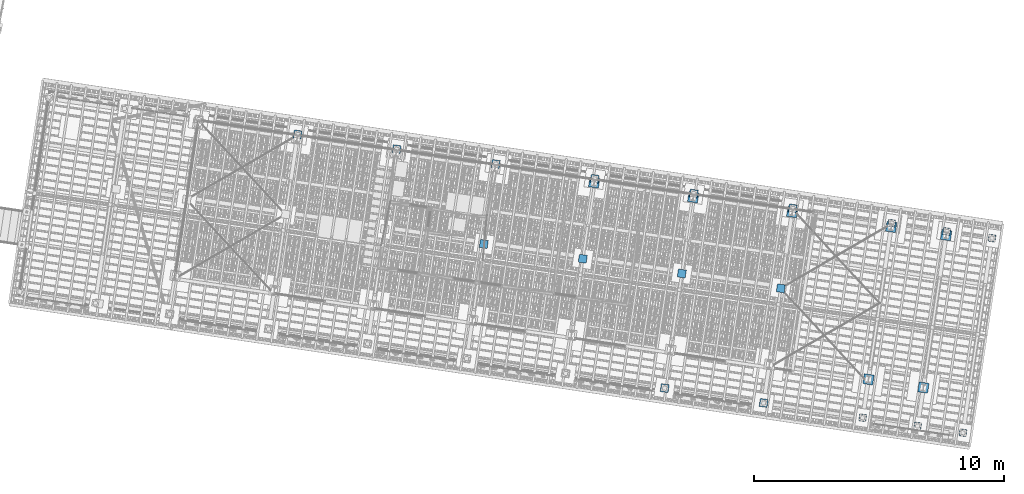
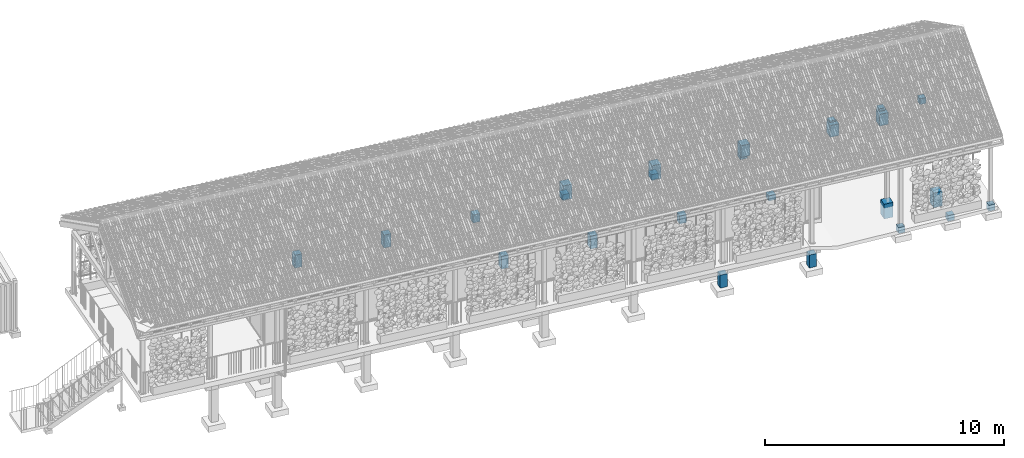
# One storey, part 6 of 131: 25 columns, 2 elements without a shape of their own.
"""IFC4 building model written with IfcOpenShell, lengths in metres."""

from ifc_helpers import new_model, si_unit, direction, frame, origin_with_axes, place, context, subcontext, project, spatial, polyline, outline, extrude, material, element, aggregate, save


model = new_model("IFC4")

# Units and contexts
model_context = context("Model", 3, precision=1e-05, world=origin_with_axes(), true_north=direction((0.0, 1.0)))
body_context = subcontext(model_context, "Body", "Model", "MODEL_VIEW")
ifc_project = project(units=[si_unit("VOLUMEUNIT", "CUBIC_METRE"), si_unit("LENGTHUNIT", "METRE"), si_unit("AREAUNIT", "SQUARE_METRE")], contexts=[model_context])

# Site, building, storey
site_placement = place(None, origin_with_axes())
site = spatial("IfcSite", under=ifc_project, at=site_placement, Name="Lares · Rua das Mercês · artigo 4771")
building_placement = place(site_placement, frame((15.0, 9.7, 14.65), z_axis=(0.0, 0.0, 1.0), x_axis=(0.989015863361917, -0.147809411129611, 0.0)))
building = spatial("IfcBuilding", under=site, at=building_placement, Name="Casa Sobreposta")
storey_placement = place(building_placement, origin_with_axes())
storey = spatial("IfcBuildingStorey", under=building, at=storey_placement, Name="00 · Habitação e estacionamento", Elevation=14.65)

# Columns
ifc_material = material(Name="Betão armado / Stahlbeton", Category="concrete")
column_1_placement = place(storey_placement, frame((0.0, 0.0, -0.75), z_axis=(0.0, 0.0, 1.0), x_axis=(1.0, 0.0, 0.0)))
element("IfcColumn", 1, at=column_1_placement, inside=storey, material=ifc_material, Name="Casa térrea · pedestal", context=body_context, shape_type="SweptSolid", body=[
    extrude(outline(polyline([(16.2, 6.08), (16.2, 6.48), (15.8, 6.48), (15.8, 6.08), (16.2, 6.08)])), origin_with_axes(), (0.0, 0.0, 1.0), 0.75),
])
column_2_placement = place(storey_placement, frame((0.0, 0.0, -0.75), z_axis=(0.0, 0.0, 1.0), x_axis=(1.0, 0.0, 0.0)))
element("IfcColumn", 2, at=column_2_placement, inside=storey, material=ifc_material, Name="Casa térrea · pedestal", context=body_context, shape_type="SweptSolid", body=[
    extrude(outline(polyline([(20.2, 6.08), (20.2, 6.48), (19.8, 6.48), (19.8, 6.08), (20.2, 6.08)])), origin_with_axes(), (0.0, 0.0, 1.0), 0.75),
])
column_3_placement = place(storey_placement, frame((0.0, 0.0, -0.6), z_axis=(0.0, 0.0, 1.0), x_axis=(1.0, 0.0, 0.0)))
element("IfcColumn", 3, at=column_3_placement, inside=storey, material=ifc_material, Name="Casa térrea · pedestal", context=body_context, shape_type="SweptSolid", body=[
    extrude(outline(polyline([(24.2, 6.08), (24.2, 6.48), (23.8, 6.48), (23.8, 6.08), (24.2, 6.08)])), origin_with_axes(), (0.0, 0.0, 1.0), 0.6),
])
column_4_placement = place(storey_placement, frame((0.0, 0.0, -0.75), z_axis=(0.0, 0.0, 1.0), x_axis=(1.0, 0.0, 0.0)))
element("IfcColumn", 4, at=column_4_placement, inside=storey, material=ifc_material, Name="Casa térrea · pedestal", context=body_context, shape_type="SweptSolid", body=[
    extrude(outline(polyline([(28.2, -0.08), (28.2, 0.32), (27.8, 0.32), (27.8, -0.08), (28.2, -0.08)])), origin_with_axes(), (0.0, 0.0, 1.0), 0.75),
])
column_5_placement = place(storey_placement, frame((0.0, 0.0, -0.6), z_axis=(0.0, 0.0, 1.0), x_axis=(1.0, 0.0, 0.0)))
element("IfcColumn", 5, at=column_5_placement, inside=storey, material=ifc_material, Name="Casa térrea · pedestal", context=body_context, shape_type="SweptSolid", body=[
    extrude(outline(polyline([(28.2, 6.08), (28.2, 6.48), (27.8, 6.48), (27.8, 6.08), (28.2, 6.08)])), origin_with_axes(), (0.0, 0.0, 1.0), 0.6),
])
column_6_placement = place(storey_placement, frame((0.0, 0.0, -0.75), z_axis=(0.0, 0.0, 1.0), x_axis=(1.0, 0.0, 0.0)))
element("IfcColumn", 6, at=column_6_placement, inside=storey, material=ifc_material, Name="Casa térrea · pedestal", context=body_context, shape_type="SweptSolid", body=[
    extrude(outline(polyline([(30.42, -0.08), (30.42, 0.32), (30.02, 0.32), (30.02, -0.08), (30.42, -0.08)])), origin_with_axes(), (0.0, 0.0, 1.0), 0.75),
])
column_7_placement = place(storey_placement, frame((0.0, 0.0, -0.6), z_axis=(0.0, 0.0, 1.0), x_axis=(1.0, 0.0, 0.0)))
element("IfcColumn", 7, at=column_7_placement, inside=storey, material=ifc_material, Name="Casa térrea · pedestal", context=body_context, shape_type="SweptSolid", body=[
    extrude(outline(polyline([(30.42, 6.08), (30.42, 6.48), (30.02, 6.48), (30.02, 6.08), (30.42, 6.08)])), origin_with_axes(), (0.0, 0.0, 1.0), 0.6),
])

# Assembly, columns
assembly_1_placement = place(storey_placement, origin_with_axes())
assembly_1 = element("IfcElementAssembly", 8, at=assembly_1_placement, inside=storey, Name="Pódio · terraço, casa térrea e cisterna", ObjectType="CISTERN_PODIUM", PredefinedType="USERDEFINED")
column_8_placement = place(assembly_1_placement, frame((0.0, 0.0, -1.25), z_axis=(0.0, 0.0, 1.0), x_axis=(1.0, 0.0, 0.0)))
column_8 = element("IfcColumn", 9, at=column_8_placement, material=ifc_material, Name="Pódio suspenso · apoio sobre o terreno", context=body_context, shape_type="SweptSolid", body=[
    extrude(outline(polyline([(4.16, 6.27), (4.16, 6.59), (3.84, 6.59), (3.84, 6.27), (4.16, 6.27)])), origin_with_axes(), (0.0, 0.0, 1.0), 0.66),
])
column_9_placement = place(assembly_1_placement, frame((0.0, 0.0, -1.25), z_axis=(0.0, 0.0, 1.0), x_axis=(1.0, 0.0, 0.0)))
column_9 = element("IfcColumn", 10, at=column_9_placement, material=ifc_material, Name="Pódio suspenso · apoio sobre o terreno", context=body_context, shape_type="SweptSolid", body=[
    extrude(outline(polyline([(8.16, 6.27), (8.16, 6.59), (7.84, 6.59), (7.84, 6.27), (8.16, 6.27)])), origin_with_axes(), (0.0, 0.0, 1.0), 0.66),
])
column_10_placement = place(assembly_1_placement, frame((0.0, 0.0, -1.25), z_axis=(0.0, 0.0, 1.0), x_axis=(1.0, 0.0, 0.0)))
column_10 = element("IfcColumn", 11, at=column_10_placement, material=ifc_material, Name="Pódio suspenso · apoio sobre o terreno", context=body_context, shape_type="SweptSolid", body=[
    extrude(outline(polyline([(12.16, 3.04), (12.16, 3.36), (11.84, 3.36), (11.84, 3.04), (12.16, 3.04)])), origin_with_axes(), (0.0, 0.0, 1.0), 0.66),
])
column_11_placement = place(assembly_1_placement, frame((0.0, 0.0, -1.0), z_axis=(0.0, 0.0, 1.0), x_axis=(1.0, 0.0, 0.0)))
column_11 = element("IfcColumn", 12, at=column_11_placement, material=ifc_material, Name="Pódio suspenso · apoio sobre o terreno", context=body_context, shape_type="SweptSolid", body=[
    extrude(outline(polyline([(12.16, 6.27), (12.16, 6.59), (11.84, 6.59), (11.84, 6.27), (12.16, 6.27)])), origin_with_axes(), (0.0, 0.0, 1.0), 0.41),
])
column_12_placement = place(assembly_1_placement, frame((0.0, 0.0, -1.25), z_axis=(0.0, 0.0, 1.0), x_axis=(1.0, 0.0, 0.0)))
column_12 = element("IfcColumn", 13, at=column_12_placement, material=ifc_material, Name="Pódio suspenso · apoio sobre o terreno", context=body_context, shape_type="SweptSolid", body=[
    extrude(outline(polyline([(16.16, 3.04), (16.16, 3.36), (15.84, 3.36), (15.84, 3.04), (16.16, 3.04)])), origin_with_axes(), (0.0, 0.0, 1.0), 0.66),
])
column_13_placement = place(assembly_1_placement, frame((0.0, 0.0, -0.85), z_axis=(0.0, 0.0, 1.0), x_axis=(1.0, 0.0, 0.0)))
column_13 = element("IfcColumn", 14, at=column_13_placement, material=ifc_material, Name="Pódio suspenso · apoio sobre o terreno", context=body_context, shape_type="SweptSolid", body=[
    extrude(outline(polyline([(16.16, 6.27), (16.16, 6.59), (15.84, 6.59), (15.84, 6.27), (16.16, 6.27)])), origin_with_axes(), (0.0, 0.0, 1.0), 0.26),
])
column_14_placement = place(assembly_1_placement, frame((0.0, 0.0, -1.25), z_axis=(0.0, 0.0, 1.0), x_axis=(1.0, 0.0, 0.0)))
column_14 = element("IfcColumn", 15, at=column_14_placement, material=ifc_material, Name="Pódio suspenso · apoio sobre o terreno", context=body_context, shape_type="SweptSolid", body=[
    extrude(outline(polyline([(20.16, -1.59), (20.16, -1.27), (19.84, -1.27), (19.84, -1.59), (20.16, -1.59)])), origin_with_axes(), (0.0, 0.0, 1.0), 0.66),
])
column_15_placement = place(assembly_1_placement, frame((0.0, 0.0, -1.0), z_axis=(0.0, 0.0, 1.0), x_axis=(1.0, 0.0, 0.0)))
column_15 = element("IfcColumn", 16, at=column_15_placement, material=ifc_material, Name="Pódio suspenso · apoio sobre o terreno", context=body_context, shape_type="SweptSolid", body=[
    extrude(outline(polyline([(20.16, 3.04), (20.16, 3.36), (19.84, 3.36), (19.84, 3.04), (20.16, 3.04)])), origin_with_axes(), (0.0, 0.0, 1.0), 0.41),
])
column_16_placement = place(assembly_1_placement, frame((0.0, 0.0, -0.85), z_axis=(0.0, 0.0, 1.0), x_axis=(1.0, 0.0, 0.0)))
column_16 = element("IfcColumn", 17, at=column_16_placement, material=ifc_material, Name="Pódio suspenso · apoio sobre o terreno", context=body_context, shape_type="SweptSolid", body=[
    extrude(outline(polyline([(20.16, 6.27), (20.16, 6.59), (19.84, 6.59), (19.84, 6.27), (20.16, 6.27)])), origin_with_axes(), (0.0, 0.0, 1.0), 0.26),
])
column_17_placement = place(assembly_1_placement, frame((0.0, 0.0, -1.25), z_axis=(0.0, 0.0, 1.0), x_axis=(1.0, 0.0, 0.0)))
column_17 = element("IfcColumn", 18, at=column_17_placement, material=ifc_material, Name="Pódio suspenso · apoio sobre o terreno", context=body_context, shape_type="SweptSolid", body=[
    extrude(outline(polyline([(24.16, -1.59), (24.16, -1.27), (23.84, -1.27), (23.84, -1.59), (24.16, -1.59)])), origin_with_axes(), (0.0, 0.0, 1.0), 0.66),
])
column_18_placement = place(assembly_1_placement, frame((0.0, 0.0, -0.85), z_axis=(0.0, 0.0, 1.0), x_axis=(1.0, 0.0, 0.0)))
column_18 = element("IfcColumn", 19, at=column_18_placement, material=ifc_material, Name="Pódio suspenso · apoio sobre o terreno", context=body_context, shape_type="SweptSolid", body=[
    extrude(outline(polyline([(24.16, 3.04), (24.16, 3.36), (23.84, 3.36), (23.84, 3.04), (24.16, 3.04)])), origin_with_axes(), (0.0, 0.0, 1.0), 0.26),
])
column_19_placement = place(assembly_1_placement, frame((0.0, 0.0, -0.85), z_axis=(0.0, 0.0, 1.0), x_axis=(1.0, 0.0, 0.0)))
column_19 = element("IfcColumn", 20, at=column_19_placement, material=ifc_material, Name="Pódio suspenso · apoio sobre o terreno", context=body_context, shape_type="SweptSolid", body=[
    extrude(outline(polyline([(24.16, 6.27), (24.16, 6.59), (23.84, 6.59), (23.84, 6.27), (24.16, 6.27)])), origin_with_axes(), (0.0, 0.0, 1.0), 0.26),
])
aggregate(assembly_1, [column_8, column_9, column_10, column_11, column_12, column_13, column_14, column_15, column_16, column_17, column_18, column_19])

assembly_2_placement = place(storey_placement, origin_with_axes())
assembly_2 = element("IfcElementAssembly", 21, at=assembly_2_placement, inside=storey, Name="Varanda coberta · continuação integral da cobertura", ObjectType="COVERED_PODIUM_BALCONY", PredefinedType="USERDEFINED")
column_20_placement = place(assembly_2_placement, frame((0.0, 0.0, -0.54005), z_axis=(0.0, 0.0, 1.0), x_axis=(1.0, 0.0, 0.0)))
column_20 = element("IfcColumn", 22, at=column_20_placement, material=ifc_material, Name="Varanda coberta · pedestal enterrado", context=body_context, shape_type="SweptSolid", body=[
    extrude(outline(polyline([(28.14, -1.57), (28.14, -1.29), (27.86, -1.29), (27.86, -1.57), (28.14, -1.57)])), origin_with_axes(), (0.0, 0.0, 1.0), 0.3),
])
column_21_placement = place(assembly_2_placement, frame((0.0, 0.0, -0.225649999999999), z_axis=(0.0, 0.0, 1.0), x_axis=(1.0, 0.0, 0.0)))
column_21 = element("IfcColumn", 23, at=column_21_placement, material=ifc_material, Name="Varanda coberta · pedestal enterrado", context=body_context, shape_type="SweptSolid", body=[
    extrude(outline(polyline([(28.14, 6.29), (28.14, 6.57), (27.86, 6.57), (27.86, 6.29), (28.14, 6.29)])), origin_with_axes(), (0.0, 0.0, 1.0), 0.3),
])
column_22_placement = place(assembly_2_placement, frame((0.0, 0.0, -0.48455), z_axis=(0.0, 0.0, 1.0), x_axis=(1.0, 0.0, 0.0)))
column_22 = element("IfcColumn", 24, at=column_22_placement, material=ifc_material, Name="Varanda coberta · pedestal enterrado", context=body_context, shape_type="SweptSolid", body=[
    extrude(outline(polyline([(30.36, -1.57), (30.36, -1.29), (30.08, -1.29), (30.08, -1.57), (30.36, -1.57)])), origin_with_axes(), (0.0, 0.0, 1.0), 0.3),
])
column_23_placement = place(assembly_2_placement, frame((0.0, 0.0, -0.170149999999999), z_axis=(0.0, 0.0, 1.0), x_axis=(1.0, 0.0, 0.0)))
column_23 = element("IfcColumn", 25, at=column_23_placement, material=ifc_material, Name="Varanda coberta · pedestal enterrado", context=body_context, shape_type="SweptSolid", body=[
    extrude(outline(polyline([(30.36, 6.29), (30.36, 6.57), (30.08, 6.57), (30.08, 6.29), (30.36, 6.29)])), origin_with_axes(), (0.0, 0.0, 1.0), 0.3),
])
column_24_placement = place(assembly_2_placement, frame((0.0, 0.0, -0.4388), z_axis=(0.0, 0.0, 1.0), x_axis=(1.0, 0.0, 0.0)))
column_24 = element("IfcColumn", 26, at=column_24_placement, material=ifc_material, Name="Varanda coberta · pedestal enterrado", context=body_context, shape_type="SweptSolid", body=[
    extrude(outline(polyline([(32.19, -1.57), (32.19, -1.29), (31.91, -1.29), (31.91, -1.57), (32.19, -1.57)])), origin_with_axes(), (0.0, 0.0, 1.0), 0.3),
])
column_25_placement = place(assembly_2_placement, frame((0.0, 0.0, -0.124399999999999), z_axis=(0.0, 0.0, 1.0), x_axis=(1.0, 0.0, 0.0)))
column_25 = element("IfcColumn", 27, at=column_25_placement, material=ifc_material, Name="Varanda coberta · pedestal enterrado", context=body_context, shape_type="SweptSolid", body=[
    extrude(outline(polyline([(32.19, 6.29), (32.19, 6.57), (31.91, 6.57), (31.91, 6.29), (32.19, 6.29)])), origin_with_axes(), (0.0, 0.0, 1.0), 0.3),
])
aggregate(assembly_2, [column_20, column_21, column_22, column_23, column_24, column_25])

save(model, "model.ifc")
